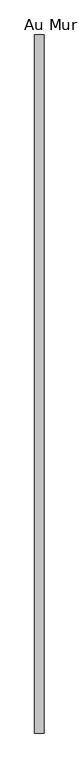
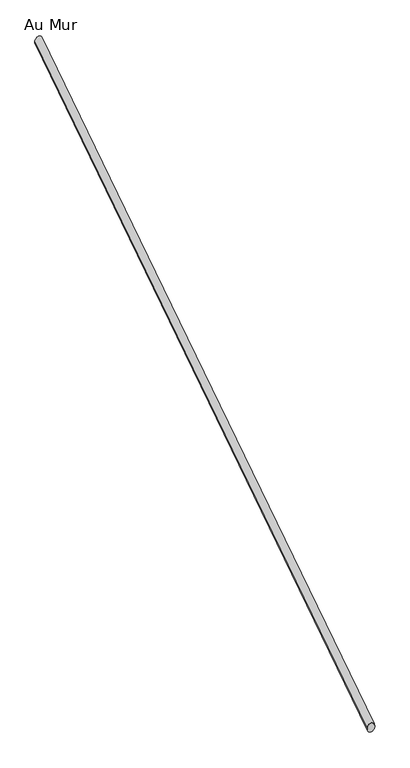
"""IFC4 building model written with IfcOpenShell, lengths in millimetres: railing geometry, Au Mur."""

from ifc_helpers import new_model, si_unit, frame, origin, place, context, project, spatial, ellipse_curve, source, transform, mapped, element, save
from ifc_brep_helpers import plane_surface, cylinder_surface, advanced_brep


def au_mur_88e008d0(model_context):
    return source(origin(), model_context, "Body", "AdvancedBrep", [
        advanced_brep(
        [(-15876.2209314, 12978.7206382, 1958.5372957), (-15846.2209314, 12978.7206382, 1958.5372957), (-15876.2209314, 15218.7206382, 3423.761705), (-15846.2209314, 15218.7206382, 3423.761705)],
        [
            (0, 1, ellipse_curve(frame((-15861.2209314, 12978.7206382, 1958.5372957), z_axis=(0.0, -1.0, 0.0), x_axis=(0.0, 0.0, -1.0)), 17.9240297, 15.0)),
            (1, 0, ellipse_curve(frame((-15861.2209314, 12978.7206382, 1958.5372957), z_axis=(0.0, -1.0, 0.0), x_axis=(0.0, 0.0, -1.0)), 17.9240297, 15.0)),
            (2, 3, ellipse_curve(frame((-15861.2209314, 15218.7206382, 3423.761705), z_axis=(0.0, 1.0, 0.0), x_axis=(0.0, 0.0, -1.0)), 17.9240297, 15.0)),
            (3, 2, ellipse_curve(frame((-15861.2209314, 15218.7206382, 3423.761705), z_axis=(0.0, 1.0, 0.0), x_axis=(0.0, 0.0, -1.0)), 17.9240297, 15.0)),
            (0, 2),
            (3, 1),
        ],
        [
            plane_surface(frame((-15861.2209314, 12978.7206382, 1976.4613254), z_axis=(0.0, -1.0, 0.0), x_axis=(0.0, 0.0, 1.0))),
            plane_surface(frame((-15861.2209314, 15218.7206382, 3441.6857348), z_axis=(0.0, 1.0, 0.0), x_axis=(0.0, 0.0, 1.0))),
            cylinder_surface(frame((-15861.2209314, 12986.9317693, 1963.9083447), z_axis=(0.0, -0.8368653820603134, -0.547408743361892), x_axis=(1.0, 0.0, 0.0)), 15.0),
        ],
        [
            (0, [[1, 2]]),
            (1, [[3, 4]]),
            (2, [[-1, 5, -4, 6]]),
            (2, [[-2, -6, -3, -5]]),
        ],
    ),
    ])


if __name__ == "__main__":
    model = new_model("IFC4")
    model_context = context("Model", 3, world=origin())
    ifc_project = project(units=[si_unit("LENGTHUNIT", "METRE", prefix="MILLI")], contexts=[model_context])
    site = spatial("IfcSite", under=ifc_project)
    building = spatial("IfcBuilding", under=site)
    placement = place(None, origin())
    au_mur_shape = au_mur_88e008d0(model_context)
    element("IfcRailing", 1, ObjectType="Au Mur", at=placement, inside=building, context=model_context, shape_type="MappedRepresentation", body=[
        mapped(au_mur_shape, transform((0.0, 0.0, 0.0), x_axis=(1.0, 0.0, 0.0), y_axis=(0.0, 1.0, 0.0), z_axis=(0.0, 0.0, 1.0))),
    ])
    save(model, "model.ifc")
